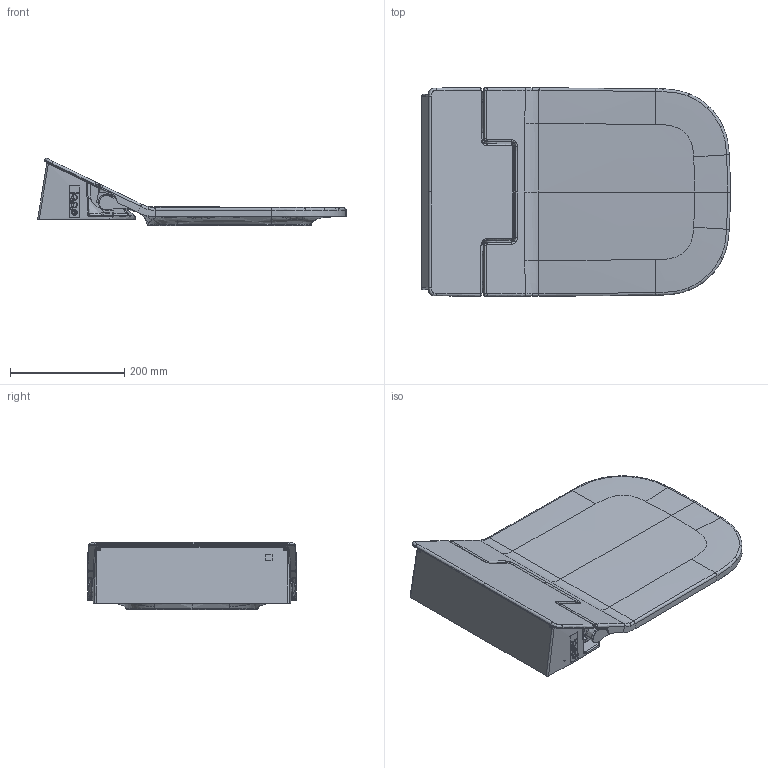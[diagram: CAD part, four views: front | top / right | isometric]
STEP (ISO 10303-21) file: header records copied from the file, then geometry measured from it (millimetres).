
FILE_DESCRIPTION((''),'2;1');
FILE_NAME('C:\Users\Administrator\Desktop\NEWS 2015 Step 1\SensoWash Slim 611300\3d\stp\611300.stp','2015-07-06T13:18:06',('Administrator'),(''),'Autodesk Inventor 2011','Autodesk Inventor 2011','');
FILE_SCHEMA(('CONFIG_CONTROL_DESIGN'));
Length unit declared in the file: millimetre
Products named in the file (2): 611300
Assembly tree (1 placements, depth 2):
  611300
    611300
Bounding box: 539.61 x 365.21 x 117.24 mm (x, y, z)
Volume: 2040380.2 mm3; surface area: 870067.3 mm2
Topology: 17 solids, 17 shells, 2684 faces, 11453 edges, 8905 vertices
Faces by surface type: bspline 1209, plane 610, cylinder 583, sphere 116, torus 103, cone 63
Full cylindrical faces by diameter (mm): 0.613 x1, 0.628 x1, 0.695 x1, 0.713 x1, 0.782 x1, 0.803 x1, 0.916 x1, 0.94 x1, 1.091 x1, 1.119 x1, 2.4 x2, 3.4 x3, 3.5 x4, 4 x1, 5.5 x1, 6.5 x1, 8 x1, 9 x2, 10 x3, 12 x2, 16 x2, 19.8 x6
Entity records: 200104 total; most frequent: CARTESIAN_POINT 113007, ORIENTED_EDGE 22686, DIRECTION 11466, EDGE_CURVE 11343, VERTEX_POINT 8886, B_SPLINE_CURVE_WITH_KNOTS 5307, AXIS2_PLACEMENT_3D 3952, VECTOR 3562
